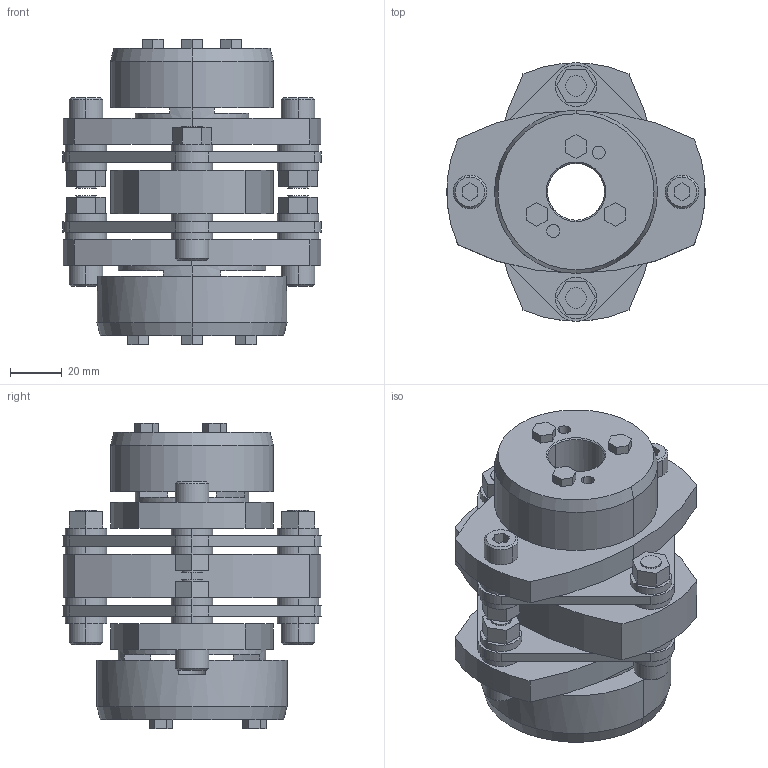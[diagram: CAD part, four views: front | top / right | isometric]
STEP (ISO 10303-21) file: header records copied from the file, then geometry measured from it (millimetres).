
FILE_DESCRIPTION((''),'2;1');
FILE_NAME('LCD-100T7-22×35.stp','2011-09-09T08:38:50',(''),(''),'AutoCAD STEP 2000i','AutoCAD 2000i',', , ');
FILE_SCHEMA(('CONFIG_CONTROL_DESIGN'));
Length unit declared in the file: millimetre
Products named in the file (8): LCD-100T7-22×35; 忣兜1; LC100T7-T035; LC100T7-T030; LC100T7-T025; LC100T7-T022-1; LC100T7-T022; LCD100-ITA
Assembly tree (7 placements, depth 2):
  LCD-100T7-22×35
    忣兜1
    LC100T7-T035
    LC100T7-T030
    LC100T7-T025
    LC100T7-T022-1
    LC100T7-T022
    LCD100-ITA
Bounding box: 100 x 99.93 x 118 mm (x, y, z)
Volume: 362059 mm3; surface area: 91327.6 mm2
Topology: 1 solids, 1 shells, 324 faces, 792 edges, 520 vertices
Faces by surface type: plane 178, cylinder 122, cone 24
Entity records: 9817 total; most frequent: DIRECTION 1744, CARTESIAN_POINT 1644, ORIENTED_EDGE 1584, EDGE_CURVE 792, AXIS2_PLACEMENT_3D 620, VERTEX_POINT 520, VECTOR 504, LINE 504
